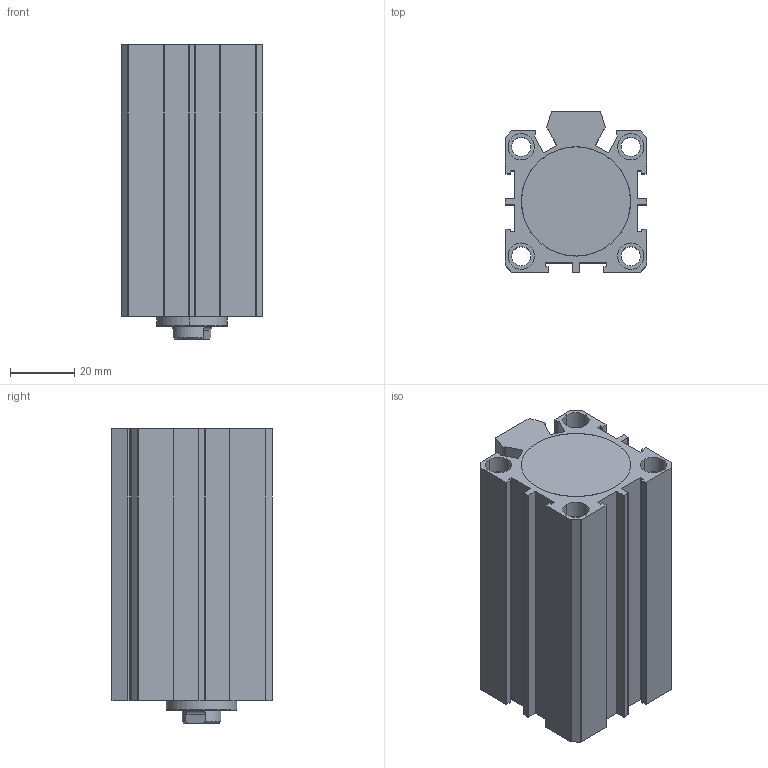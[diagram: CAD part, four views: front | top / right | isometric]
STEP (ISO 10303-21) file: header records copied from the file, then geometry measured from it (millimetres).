
FILE_DESCRIPTION (( 'STEP AP203' ), '1' );
FILE_NAME ('SDA-S-32X50CYLINDER.STEP', '2015-08-01T07:18:14', ( 'user' ), ( '' ), 'SwSTEP 2.0', 'SolidWorks 2013', '' );
FILE_SCHEMA (( 'CONFIG_CONTROL_DESIGN' ));
Length unit declared in the file: millimetre
Products named in the file (5): SDA-S 32 烰 KAPAK; SDA-S-32X50CYLINDER; SDA-S 32X50 BORU; SDA-S 32X50 M尳 VE TOP; SDA-S 32 ARKA KAPAK
Assembly tree (4 placements, depth 2):
  SDA-S-32X50CYLINDER
    SDA-S 32X50 BORU
    SDA-S 32X50 M尳 VE TOP
    SDA-S 32 ARKA KAPAK
    SDA-S 32 烰 KAPAK
Bounding box: 44 x 50 x 91.5 mm (x, y, z)
Volume: 106836.5 mm3; surface area: 53439.8 mm2
Topology: 4 solids, 8 shells, 239 faces, 584 edges, 384 vertices
Faces by surface type: cylinder 113, plane 107, cone 15, bspline 4
Entity records: 7805 total; most frequent: CARTESIAN_POINT 1455, DIRECTION 1278, ORIENTED_EDGE 1168, EDGE_CURVE 584, AXIS2_PLACEMENT_3D 479, VERTEX_POINT 384, VECTOR 320, LINE 320
